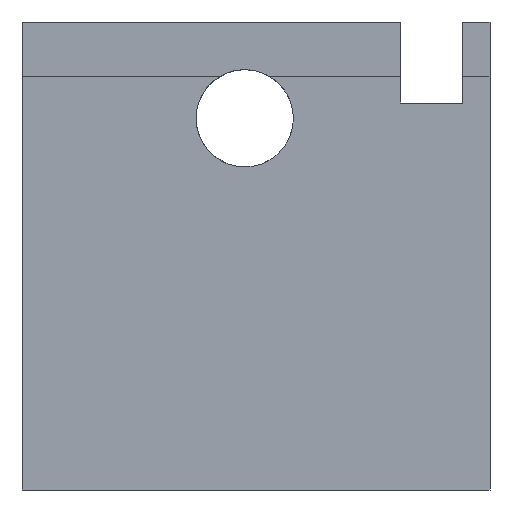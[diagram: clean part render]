
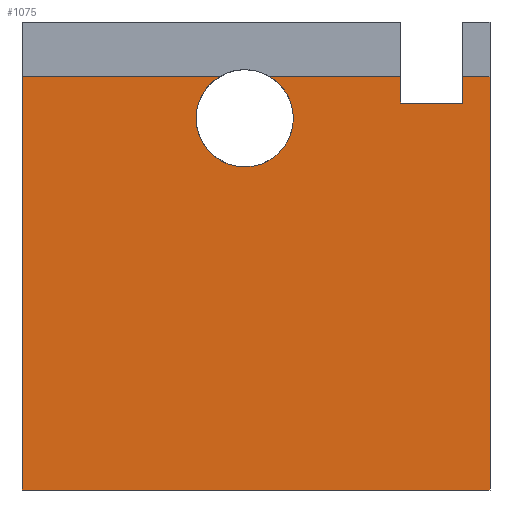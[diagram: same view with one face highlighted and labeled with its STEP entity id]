
A CAD part, left-side view. The second image highlights one B-rep face of the part: STEP entity #1075.
In plain terms, the highlighted planar face has unit normal (-1, 0, 0).
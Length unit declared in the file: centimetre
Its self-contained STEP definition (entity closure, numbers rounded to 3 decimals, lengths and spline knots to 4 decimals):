
#8 = VECTOR ( 'NONE', #710, 100. ) ;
#15 = CARTESIAN_POINT ( 'NONE',  ( 0., 1000., 883.2998 ) ) ;
#22 = CARTESIAN_POINT ( 'NONE',  ( 0., 577.717, 883.2998 ) ) ;
#36 = CARTESIAN_POINT ( 'NONE',  ( 0., 190.3912, 826.9199 ) ) ;
#49 = EDGE_CURVE ( 'NONE', #296, #552, #1133, .T. ) ;
#62 = DIRECTION ( 'NONE',  ( -1., 0., 0. ) ) ;
#71 = CARTESIAN_POINT ( 'NONE',  ( 0., 190.3912, 826.9199 ) ) ;
#100 = EDGE_CURVE ( 'NONE', #368, #850, #189, .T. ) ;
#189 = CIRCLE ( 'NONE', #589, 103.9679 ) ;
#200 = VECTOR ( 'NONE', #1112, 100. ) ;
#204 = FACE_OUTER_BOUND ( 'NONE', #456, .T. ) ;
#210 = DIRECTION ( 'NONE',  ( 0., -1., 0. ) ) ;
#212 = EDGE_CURVE ( 'NONE', #1326, #933, #371, .T. ) ;
#226 = VECTOR ( 'NONE', #1089, 100. ) ;
#274 = EDGE_CURVE ( 'NONE', #296, #494, #623, .T. ) ;
#296 = VERTEX_POINT ( 'NONE', #1419 ) ;
#340 = ORIENTED_EDGE ( 'NONE', *, *, #855, .F. ) ;
#348 = ORIENTED_EDGE ( 'NONE', *, *, #480, .F. ) ;
#368 = VERTEX_POINT ( 'NONE', #22 ) ;
#371 = LINE ( 'NONE', #1279, #748 ) ;
#388 = ORIENTED_EDGE ( 'NONE', *, *, #676, .T. ) ;
#393 = EDGE_CURVE ( 'NONE', #494, #843, #1113, .T. ) ;
#398 = ORIENTED_EDGE ( 'NONE', *, *, #1153, .T. ) ;
#422 = EDGE_CURVE ( 'NONE', #1326, #368, #1313, .T. ) ;
#436 = VERTEX_POINT ( 'NONE', #978 ) ;
#438 = LINE ( 'NONE', #71, #200 ) ;
#441 = CARTESIAN_POINT ( 'NONE',  ( 0., 524.1163, 794.214 ) ) ;
#448 = ORIENTED_EDGE ( 'NONE', *, *, #49, .T. ) ;
#456 = EDGE_LOOP ( 'NONE', ( #521, #448, #388, #918, #348, #340, #888, #1392, #541, #398, #1125 ) ) ;
#480 = EDGE_CURVE ( 'NONE', #883, #436, #763, .T. ) ;
#494 = VERTEX_POINT ( 'NONE', #997 ) ;
#499 = DIRECTION ( 'NONE',  ( 0., -1., 0. ) ) ;
#521 = ORIENTED_EDGE ( 'NONE', *, *, #274, .F. ) ;
#541 = ORIENTED_EDGE ( 'NONE', *, *, #212, .T. ) ;
#550 = DIRECTION ( 'NONE',  ( 0., 0., -1. ) ) ;
#552 = VERTEX_POINT ( 'NONE', #776 ) ;
#589 = AXIS2_PLACEMENT_3D ( 'NONE', #441, #1124, #889 ) ;
#594 = CARTESIAN_POINT ( 'NONE',  ( 0., 57.7018, 826.9199 ) ) ;
#623 = LINE ( 'NONE', #15, #960 ) ;
#633 = CARTESIAN_POINT ( 'NONE',  ( 0., 524.1163, 690.2461 ) ) ;
#659 = CARTESIAN_POINT ( 'NONE',  ( 0., 1000., 883.2998 ) ) ;
#676 = EDGE_CURVE ( 'NONE', #552, #681, #1039, .T. ) ;
#681 = VERTEX_POINT ( 'NONE', #36 ) ;
#688 = CARTESIAN_POINT ( 'NONE',  ( 0., 57.7018, 826.9199 ) ) ;
#710 = DIRECTION ( 'NONE',  ( 0., 1., 0. ) ) ;
#722 = CARTESIAN_POINT ( 'NONE',  ( 0., 0., 0. ) ) ;
#745 = AXIS2_PLACEMENT_3D ( 'NONE', #1218, #854, #863 ) ;
#748 = VECTOR ( 'NONE', #950, 100. ) ;
#763 = LINE ( 'NONE', #659, #226 ) ;
#776 = CARTESIAN_POINT ( 'NONE',  ( 0., 57.7018, 826.9199 ) ) ;
#809 = CARTESIAN_POINT ( 'NONE',  ( 0., 1000., 883.2998 ) ) ;
#810 = CIRCLE ( 'NONE', #1007, 103.9679 ) ;
#843 = VERTEX_POINT ( 'NONE', #722 ) ;
#849 = CARTESIAN_POINT ( 'NONE',  ( 0., 524.1163, 794.214 ) ) ;
#850 = VERTEX_POINT ( 'NONE', #633 ) ;
#854 = DIRECTION ( 'NONE',  ( 1., 0., 0. ) ) ;
#855 = EDGE_CURVE ( 'NONE', #850, #883, #810, .T. ) ;
#860 = CARTESIAN_POINT ( 'NONE',  ( 0., 1000., 0. ) ) ;
#863 = DIRECTION ( 'NONE',  ( 0., 0., -1. ) ) ;
#883 = VERTEX_POINT ( 'NONE', #1048 ) ;
#888 = ORIENTED_EDGE ( 'NONE', *, *, #100, .F. ) ;
#889 = DIRECTION ( 'NONE',  ( 0., 0., 1. ) ) ;
#918 = ORIENTED_EDGE ( 'NONE', *, *, #1137, .T. ) ;
#929 = VECTOR ( 'NONE', #1108, 100. ) ;
#933 = VERTEX_POINT ( 'NONE', #1057 ) ;
#950 = DIRECTION ( 'NONE',  ( 0., 0., -1. ) ) ;
#954 = DIRECTION ( 'NONE',  ( 0., 0., 1. ) ) ;
#960 = VECTOR ( 'NONE', #499, 100. ) ;
#978 = CARTESIAN_POINT ( 'NONE',  ( 0., 190.3912, 883.2998 ) ) ;
#997 = CARTESIAN_POINT ( 'NONE',  ( 0., 0., 883.2998 ) ) ;
#1007 = AXIS2_PLACEMENT_3D ( 'NONE', #849, #62, #954 ) ;
#1039 = LINE ( 'NONE', #594, #8 ) ;
#1048 = CARTESIAN_POINT ( 'NONE',  ( 0., 470.5155, 883.2998 ) ) ;
#1057 = CARTESIAN_POINT ( 'NONE',  ( 0., 1000., 0. ) ) ;
#1075 = ADVANCED_FACE ( 'NONE', ( #204 ), #1434, .F. ) ;
#1089 = DIRECTION ( 'NONE',  ( 0., -1., 0. ) ) ;
#1093 = CARTESIAN_POINT ( 'NONE',  ( 0., 1000., 883.2998 ) ) ;
#1108 = DIRECTION ( 'NONE',  ( 0., 0., -1. ) ) ;
#1112 = DIRECTION ( 'NONE',  ( 0., 0., 1. ) ) ;
#1113 = LINE ( 'NONE', #1196, #929 ) ;
#1124 = DIRECTION ( 'NONE',  ( -1., 0., 0. ) ) ;
#1125 = ORIENTED_EDGE ( 'NONE', *, *, #393, .F. ) ;
#1133 = LINE ( 'NONE', #688, #1209 ) ;
#1137 = EDGE_CURVE ( 'NONE', #681, #436, #438, .T. ) ;
#1153 = EDGE_CURVE ( 'NONE', #933, #843, #1421, .T. ) ;
#1169 = VECTOR ( 'NONE', #1318, 100. ) ;
#1172 = VECTOR ( 'NONE', #210, 100. ) ;
#1196 = CARTESIAN_POINT ( 'NONE',  ( 0., 0., 1000. ) ) ;
#1209 = VECTOR ( 'NONE', #550, 100. ) ;
#1218 = CARTESIAN_POINT ( 'NONE',  ( 0., 1000., 1000. ) ) ;
#1279 = CARTESIAN_POINT ( 'NONE',  ( 0., 1000., 1000. ) ) ;
#1313 = LINE ( 'NONE', #1093, #1172 ) ;
#1318 = DIRECTION ( 'NONE',  ( 0., -1., 0. ) ) ;
#1326 = VERTEX_POINT ( 'NONE', #809 ) ;
#1392 = ORIENTED_EDGE ( 'NONE', *, *, #422, .F. ) ;
#1419 = CARTESIAN_POINT ( 'NONE',  ( 0., 57.7018, 883.2998 ) ) ;
#1421 = LINE ( 'NONE', #860, #1169 ) ;
#1434 = PLANE ( 'NONE',  #745 ) ;
